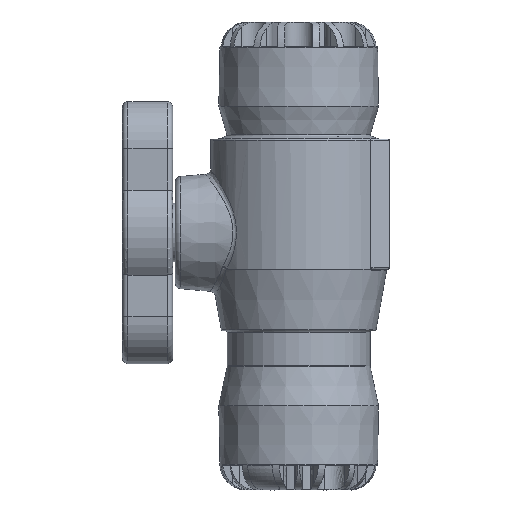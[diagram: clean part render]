
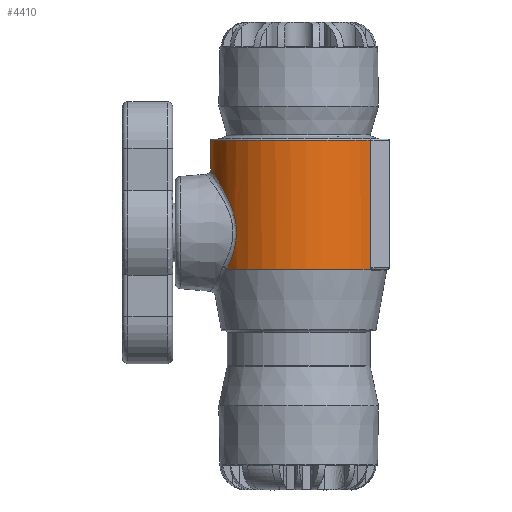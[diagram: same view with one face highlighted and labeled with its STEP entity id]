
A CAD part, left-side view. The second image highlights one B-rep face of the part: STEP entity #4410.
In plain terms, the highlighted cylindrical face has radius 32 mm (diameter 64 mm), a partial arc.
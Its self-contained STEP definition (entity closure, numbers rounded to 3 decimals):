
#154=CYLINDRICAL_SURFACE('',#4726,32.);
#249=LINE('',#6812,#487);
#254=LINE('',#6882,#492);
#487=VECTOR('',#5245,10.);
#492=VECTOR('',#5266,10.);
#751=FACE_OUTER_BOUND('',#1021,.T.);
#1021=EDGE_LOOP('',(#3019,#3020,#3021,#3022,#3023,#3024,#3025,#3026));
#1286=B_SPLINE_CURVE_WITH_KNOTS('',3,(#6708,#6709,#6710,#6711,#6712,#6713,
#6714,#6715,#6716,#6717,#6718,#6719,#6720,#6721,#6722,#6723,#6724,#6725,
#6726),.UNSPECIFIED.,.F.,.F.,(4,1,1,1,1,1,1,1,1,1,1,1,1,1,1,1,4),(-10.683,
-9.92,-9.157,-8.776,-8.394,
-7.631,-7.122,-6.105,-5.087,
-4.579,-3.815,-3.052,-2.289,
-1.526,-1.145,-0.763,0.),
 .UNSPECIFIED.);
#1292=B_SPLINE_CURVE_WITH_KNOTS('',3,(#6836,#6837,#6838,#6839),
 .UNSPECIFIED.,.F.,.F.,(4,4),(0.,0.051),.UNSPECIFIED.);
#1295=B_SPLINE_CURVE_WITH_KNOTS('',3,(#6902,#6903,#6904,#6905),
 .UNSPECIFIED.,.F.,.F.,(4,4),(-0.051,0.),.UNSPECIFIED.);
#1491=CIRCLE('',#4691,32.);
#1502=CIRCLE('',#4706,32.);
#1513=CIRCLE('',#4725,32.);
#1753=VERTEX_POINT('',#6467);
#1757=VERTEX_POINT('',#6590);
#1767=VERTEX_POINT('',#6774);
#1770=VERTEX_POINT('',#6787);
#1776=VERTEX_POINT('',#6799);
#1778=VERTEX_POINT('',#6808);
#1780=VERTEX_POINT('',#6829);
#1788=VERTEX_POINT('',#6880);
#2214=EDGE_CURVE('',#1757,#1753,#1286,.T.);
#2226=EDGE_CURVE('',#1753,#1767,#1491,.T.);
#2239=EDGE_CURVE('',#1770,#1776,#1502,.T.);
#2243=EDGE_CURVE('',#1776,#1778,#249,.T.);
#2246=EDGE_CURVE('',#1778,#1780,#1292,.T.);
#2257=EDGE_CURVE('',#1788,#1770,#254,.T.);
#2260=EDGE_CURVE('',#1767,#1788,#1295,.T.);
#2269=EDGE_CURVE('',#1780,#1757,#1513,.T.);
#3019=ORIENTED_EDGE('',*,*,#2214,.F.);
#3020=ORIENTED_EDGE('',*,*,#2269,.F.);
#3021=ORIENTED_EDGE('',*,*,#2246,.F.);
#3022=ORIENTED_EDGE('',*,*,#2243,.F.);
#3023=ORIENTED_EDGE('',*,*,#2239,.F.);
#3024=ORIENTED_EDGE('',*,*,#2257,.F.);
#3025=ORIENTED_EDGE('',*,*,#2260,.F.);
#3026=ORIENTED_EDGE('',*,*,#2226,.F.);
#4410=ADVANCED_FACE('',(#751),#154,.T.);
#4691=AXIS2_PLACEMENT_3D('',#6775,#5205,#5206);
#4706=AXIS2_PLACEMENT_3D('',#6805,#5236,#5237);
#4725=AXIS2_PLACEMENT_3D('',#6999,#5282,#5283);
#4726=AXIS2_PLACEMENT_3D('',#7000,#5284,#5285);
#5205=DIRECTION('center_axis',(0.,0.,
-1.));
#5206=DIRECTION('ref_axis',(-1.,-0.016,0.));
#5236=DIRECTION('center_axis',(0.,0.,1.));
#5237=DIRECTION('ref_axis',(0.,1.,0.));
#5245=DIRECTION('',(0.,0.,-1.));
#5266=DIRECTION('',(0.,0.,1.));
#5282=DIRECTION('center_axis',(0.,0.,-1.));
#5283=DIRECTION('ref_axis',(-1.,0.01,0.));
#5284=DIRECTION('center_axis',(0.,0.,-1.));
#5285=DIRECTION('ref_axis',(0.,1.,0.));
#6467=CARTESIAN_POINT('',(18.512,26.102,-89.755));
#6590=CARTESIAN_POINT('',(-18.512,26.102,-89.755));
#6708=CARTESIAN_POINT('Ctrl Pts',(-18.512,26.102,-89.755));
#6709=CARTESIAN_POINT('Ctrl Pts',(-19.813,25.179,-87.857));
#6710=CARTESIAN_POINT('Ctrl Pts',(-21.917,23.374,-83.631));
#6711=CARTESIAN_POINT('Ctrl Pts',(-22.865,22.381,-77.274));
#6712=CARTESIAN_POINT('Ctrl Pts',(-22.33,22.929,-72.201));
#6713=CARTESIAN_POINT('Ctrl Pts',(-21.04,24.15,-67.454));
#6714=CARTESIAN_POINT('Ctrl Pts',(-18.612,26.148,-62.978));
#6715=CARTESIAN_POINT('Ctrl Pts',(-14.016,28.957,-57.915));
#6716=CARTESIAN_POINT('Ctrl Pts',(-7.309,31.633,-53.857));
#6717=CARTESIAN_POINT('Ctrl Pts',(0.854,32.274,-52.928));
#6718=CARTESIAN_POINT('Ctrl Pts',(7.865,31.198,-54.51));
#6719=CARTESIAN_POINT('Ctrl Pts',(13.389,29.278,-57.432));
#6720=CARTESIAN_POINT('Ctrl Pts',(18.239,26.456,-62.304));
#6721=CARTESIAN_POINT('Ctrl Pts',(21.601,23.685,-68.47));
#6722=CARTESIAN_POINT('Ctrl Pts',(22.81,22.435,-74.71));
#6723=CARTESIAN_POINT('Ctrl Pts',(22.492,22.767,-79.83));
#6724=CARTESIAN_POINT('Ctrl Pts',(21.386,23.835,-84.674));
#6725=CARTESIAN_POINT('Ctrl Pts',(19.813,25.179,-87.857));
#6726=CARTESIAN_POINT('Ctrl Pts',(18.512,26.102,-89.755));
#6774=CARTESIAN_POINT('',(18.48,-26.124,-89.755));
#6775=CARTESIAN_POINT('Origin',(0.,0.,
-89.755));
#6787=CARTESIAN_POINT('',(18.636,-26.014,-43.));
#6799=CARTESIAN_POINT('',(-18.636,-26.014,-43.));
#6805=CARTESIAN_POINT('Origin',(0.,0.,-43.));
#6808=CARTESIAN_POINT('',(-18.636,-26.014,-89.298));
#6812=CARTESIAN_POINT('',(-18.636,-26.014,-66.149));
#6829=CARTESIAN_POINT('',(-18.48,-26.124,-89.755));
#6836=CARTESIAN_POINT('Ctrl Pts',(-18.636,-26.014,-89.298));
#6837=CARTESIAN_POINT('Ctrl Pts',(-18.636,-26.014,-89.468));
#6838=CARTESIAN_POINT('Ctrl Pts',(-18.571,-26.06,-89.629));
#6839=CARTESIAN_POINT('Ctrl Pts',(-18.48,-26.124,-89.755));
#6880=CARTESIAN_POINT('',(18.636,-26.014,-89.298));
#6882=CARTESIAN_POINT('',(18.636,-26.014,-66.149));
#6902=CARTESIAN_POINT('Ctrl Pts',(18.48,-26.124,-89.755));
#6903=CARTESIAN_POINT('Ctrl Pts',(18.571,-26.06,-89.629));
#6904=CARTESIAN_POINT('Ctrl Pts',(18.636,-26.014,-89.468));
#6905=CARTESIAN_POINT('Ctrl Pts',(18.636,-26.014,-89.298));
#6999=CARTESIAN_POINT('Origin',(0.,0.,-89.755));
#7000=CARTESIAN_POINT('Origin',(0.,0.,-66.149));
